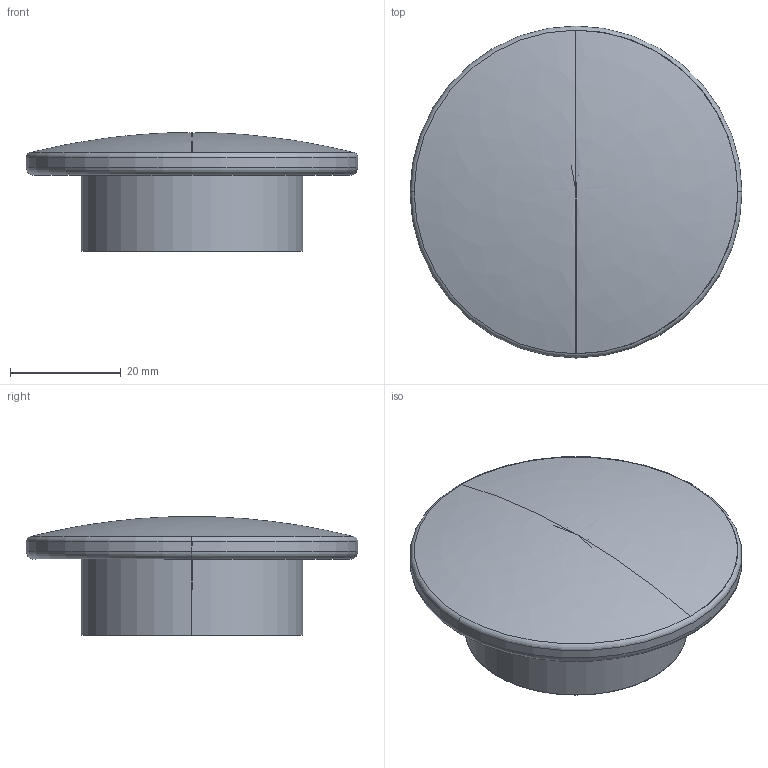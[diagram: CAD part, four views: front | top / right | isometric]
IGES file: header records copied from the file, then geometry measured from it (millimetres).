
Start section: Comment
Global section: file name: 0104-60.igs; native system: Parasolid(12.0); preprocessor: Pariges 4.4; author: Author; organization: Title; date: 20181104.075139; units: millimetre
Bounding box: 60 x 60 x 21.5 mm (x, y, z)
Surface area: 11158.1 mm2 (no closed solid volume)
Topology: 0 solids, 0 shells, 33 faces, 317 edges, 314 vertices
Faces by surface type: revolution 31, extrusion 2
